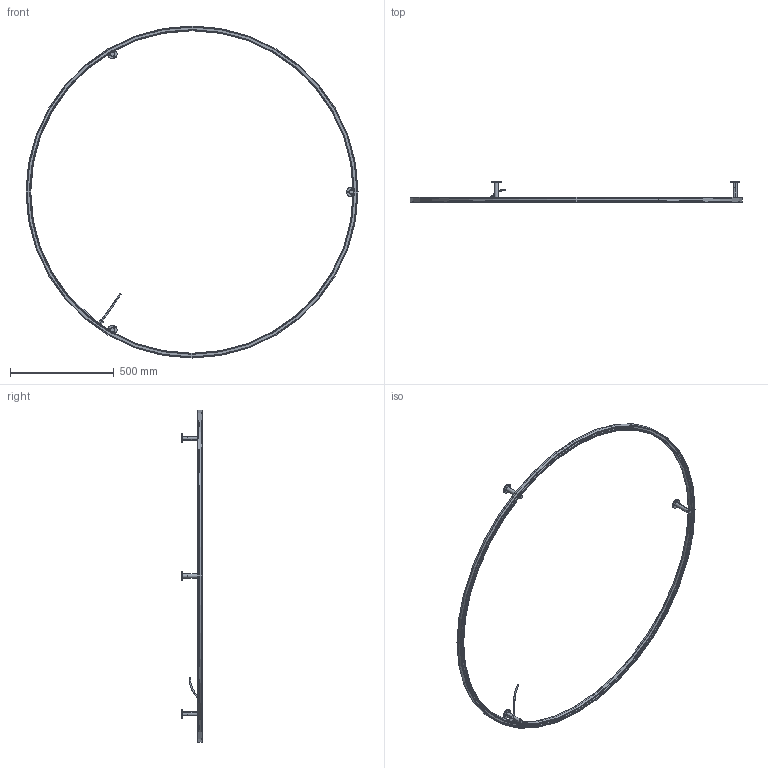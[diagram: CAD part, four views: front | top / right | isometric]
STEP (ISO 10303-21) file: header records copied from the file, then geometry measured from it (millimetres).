
FILE_DESCRIPTION (( 'STEP AP203' ), '1' );
FILE_NAME ('PLUL1160LEDXXXX-PER 3D.STEP', '2024-05-28T17:24:38', ( '' ), ( '' ), 'SwSTEP 2.0', 'SolidWorks 2024', '' );
FILE_SCHEMA (( 'CONFIG_CONTROL_DESIGN' ));
Length unit declared in the file: millimetre
Products named in the file (7): TANG YAO-7727-P415 + RIV TESSILE 33- PER ANELLI; PLUL1160LEDXXXX-PER 3D; WSCM2A0028-0700-01; WSCM2D0020-0700-00; WSCM2A0022-0700-00; ACPLULA100XXXXX; WSCM2A0030-0700-01
Assembly tree (8 placements, depth 3):
  PLUL1160LEDXXXX-PER 3D
    WSCM2D0020-0700-00
    WSCM2A0022-0700-00
    ACPLULA100XXXXX  x3
      WSCM2A0030-0700-01
      WSCM2A0028-0700-01
    TANG YAO-7727-P415 + RIV TESSILE 33- PER ANELLI
Bounding box: 1600 x 100 x 1600 mm (x, y, z)
Volume: 1224552.5 mm3; surface area: 799848.3 mm2
Topology: 9 solids, 9 shells, 358 faces, 822 edges, 492 vertices
Faces by surface type: cylinder 102, cone 99, torus 74, plane 63, bspline 20
Entity records: 15946 total; most frequent: CARTESIAN_POINT 9378, DIRECTION 1276, ORIENTED_EDGE 1180, EDGE_CURVE 590, AXIS2_PLACEMENT_3D 567, VERTEX_POINT 356, CIRCLE 317, EDGE_LOOP 288
